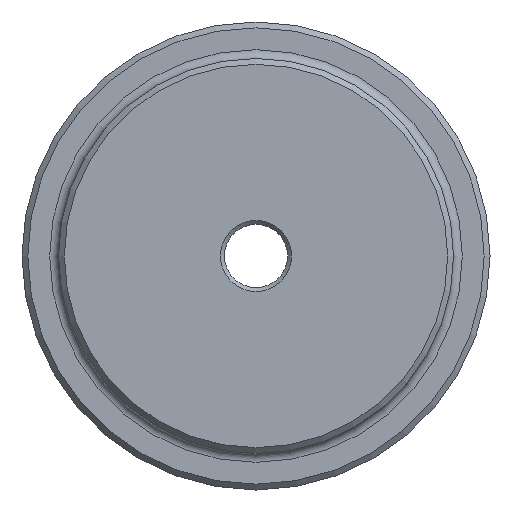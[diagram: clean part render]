
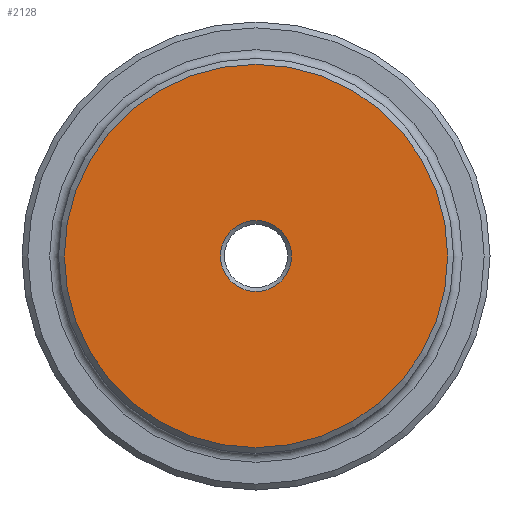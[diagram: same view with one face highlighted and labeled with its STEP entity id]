
A CAD part, left-side view. The second image highlights one B-rep face of the part: STEP entity #2128.
In plain terms, the highlighted planar face has unit normal (-1, 0, 0).
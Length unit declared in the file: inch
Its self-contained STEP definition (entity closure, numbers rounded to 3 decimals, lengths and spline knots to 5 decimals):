
#105 = AXIS2_PLACEMENT_3D ( 'NONE', #244, #1265, #1788 ) ;
#244 = CARTESIAN_POINT ( 'NONE',  ( 0., 0., 0. ) ) ;
#272 = CIRCLE ( 'NONE', #1572, 0.365 ) ;
#374 = CARTESIAN_POINT ( 'NONE',  ( 0., 0., -1.97 ) ) ;
#548 = DIRECTION ( 'NONE',  ( 1., 0., 0. ) ) ;
#564 = PLANE ( 'NONE',  #1408 ) ;
#798 = ORIENTED_EDGE ( 'NONE', *, *, #1575, .T. ) ;
#902 = CARTESIAN_POINT ( 'NONE',  ( 0., 0., -0.365 ) ) ;
#975 = VERTEX_POINT ( 'NONE', #902 ) ;
#1009 = CARTESIAN_POINT ( 'NONE',  ( 0., 0., 0. ) ) ;
#1047 = FACE_BOUND ( 'NONE', #1220, .T. ) ;
#1135 = ORIENTED_EDGE ( 'NONE', *, *, #1533, .T. ) ;
#1155 = DIRECTION ( 'NONE',  ( 0., 0., -1. ) ) ;
#1159 = VERTEX_POINT ( 'NONE', #374 ) ;
#1220 = EDGE_LOOP ( 'NONE', ( #798 ) ) ;
#1265 = DIRECTION ( 'NONE',  ( -1., 0., 0. ) ) ;
#1383 = FACE_OUTER_BOUND ( 'NONE', #2157, .T. ) ;
#1408 = AXIS2_PLACEMENT_3D ( 'NONE', #1009, #2186, #1155 ) ;
#1533 = EDGE_CURVE ( 'NONE', #1159, #1159, #1812, .T. ) ;
#1572 = AXIS2_PLACEMENT_3D ( 'NONE', #2283, #548, #1906 ) ;
#1575 = EDGE_CURVE ( 'NONE', #975, #975, #272, .T. ) ;
#1788 = DIRECTION ( 'NONE',  ( 0., 0., -1. ) ) ;
#1812 = CIRCLE ( 'NONE', #105, 1.97 ) ;
#1906 = DIRECTION ( 'NONE',  ( 0., 0., -1. ) ) ;
#2128 = ADVANCED_FACE ( 'NONE', ( #1047, #1383 ), #564, .F. ) ;
#2157 = EDGE_LOOP ( 'NONE', ( #1135 ) ) ;
#2186 = DIRECTION ( 'NONE',  ( 1., 0., 0. ) ) ;
#2283 = CARTESIAN_POINT ( 'NONE',  ( 0., 0., 0. ) ) ;
